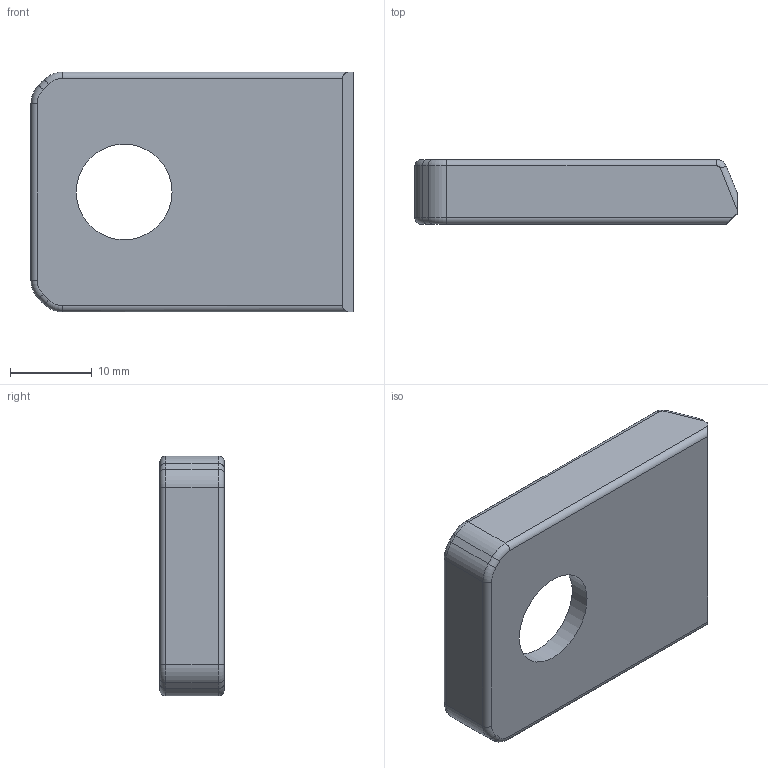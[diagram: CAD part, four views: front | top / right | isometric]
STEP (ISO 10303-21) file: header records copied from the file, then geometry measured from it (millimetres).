
FILE_DESCRIPTION(/* description */ (''),/* implementation_level */ '2;1');
FILE_NAME(/* name */ 'E:\MenMag v2.0\Menendez Magazine Pack v2.0\STEP\Menendez Mag Baseplate.stp',/* time_stamp */ '2021-03-20T20:54:44-05:00',/* author */ ('johne'),/* organization */ (''),/* preprocessor_version */ 'ST-DEVELOPER v18',/* originating_system */ 'Autodesk Inventor 2020',/* authorisation */ '');
FILE_SCHEMA (('AUTOMOTIVE_DESIGN { 1 0 10303 214 3 1 1 }'));
Length unit declared in the file: inch
Products named in the file (1): Menendez Mag Baseplate V1.2
Bounding box: 39.32 x 7.87 x 29.29 mm (x, y, z)
Volume: 3792 mm3; surface area: 3699 mm2
Topology: 1 solids, 1 shells, 82 faces, 202 edges, 122 vertices
Faces by surface type: cylinder 43, plane 21, torus 14, bspline 4
Full cylindrical faces by diameter (mm): 11.684 x1
Entity records: 2631 total; most frequent: CARTESIAN_POINT 615, DIRECTION 440, ORIENTED_EDGE 404, EDGE_CURVE 202, AXIS2_PLACEMENT_3D 171, VERTEX_POINT 122, LINE 98, VECTOR 98
